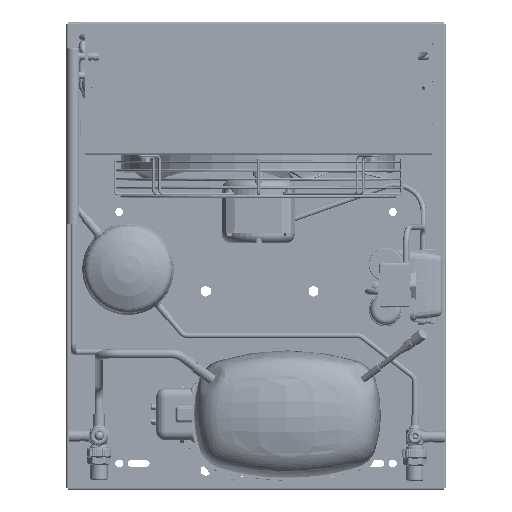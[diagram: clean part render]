
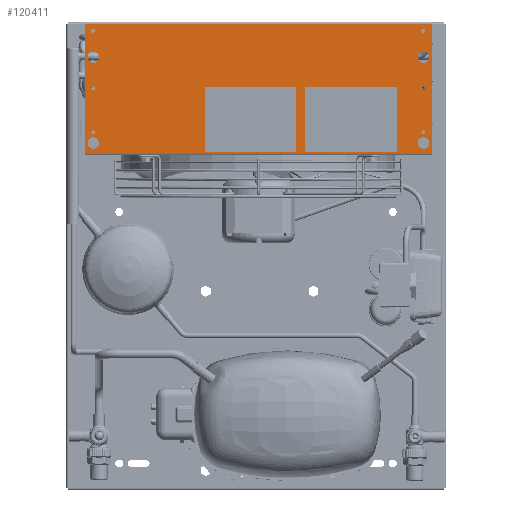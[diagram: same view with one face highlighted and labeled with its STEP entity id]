
A CAD part, top view. The second image highlights one B-rep face of the part: STEP entity #120411.
In plain terms, the highlighted planar face has unit normal (0, 0, 1).
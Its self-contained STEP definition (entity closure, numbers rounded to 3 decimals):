
#10846=LINE('',#201801,#18457);
#10895=LINE('',#201977,#18506);
#10898=LINE('',#201985,#18509);
#10899=LINE('',#202007,#18510);
#18457=VECTOR('',#173426,1000.);
#18506=VECTOR('',#173571,1000.);
#18509=VECTOR('',#173580,1000.);
#18510=VECTOR('',#173603,1000.);
#28733=ORIENTED_EDGE('',*,*,#62055,.F.);
#28734=ORIENTED_EDGE('',*,*,#62056,.F.);
#28735=ORIENTED_EDGE('',*,*,#62057,.F.);
#28736=ORIENTED_EDGE('',*,*,#62058,.F.);
#28737=ORIENTED_EDGE('',*,*,#62059,.F.);
#28738=ORIENTED_EDGE('',*,*,#62060,.F.);
#28739=ORIENTED_EDGE('',*,*,#62061,.F.);
#28740=ORIENTED_EDGE('',*,*,#62062,.F.);
#28741=ORIENTED_EDGE('',*,*,#62063,.F.);
#28742=ORIENTED_EDGE('',*,*,#62064,.F.);
#28743=ORIENTED_EDGE('',*,*,#62050,.T.);
#28744=ORIENTED_EDGE('',*,*,#62065,.F.);
#28745=ORIENTED_EDGE('',*,*,#61961,.F.);
#28746=ORIENTED_EDGE('',*,*,#62054,.T.);
#61961=EDGE_CURVE('',#79153,#79154,#10846,.T.);
#62050=EDGE_CURVE('',#79233,#79232,#10895,.T.);
#62054=EDGE_CURVE('',#79153,#79233,#10898,.T.);
#62055=EDGE_CURVE('',#79235,#79235,#90978,.T.);
#62056=EDGE_CURVE('',#79236,#79236,#90979,.T.);
#62057=EDGE_CURVE('',#79237,#79237,#90980,.T.);
#62058=EDGE_CURVE('',#79238,#79238,#90981,.T.);
#62059=EDGE_CURVE('',#79239,#79239,#90982,.T.);
#62060=EDGE_CURVE('',#79240,#79240,#90983,.T.);
#62061=EDGE_CURVE('',#79241,#79241,#90984,.T.);
#62062=EDGE_CURVE('',#79242,#79242,#90985,.T.);
#62063=EDGE_CURVE('',#79243,#79243,#90986,.T.);
#62064=EDGE_CURVE('',#79244,#79244,#90987,.T.);
#62065=EDGE_CURVE('',#79154,#79232,#10899,.T.);
#79153=VERTEX_POINT('',#201800);
#79154=VERTEX_POINT('',#201802);
#79232=VERTEX_POINT('',#201976);
#79233=VERTEX_POINT('',#201978);
#79235=VERTEX_POINT('',#201988);
#79236=VERTEX_POINT('',#201990);
#79237=VERTEX_POINT('',#201992);
#79238=VERTEX_POINT('',#201994);
#79239=VERTEX_POINT('',#201996);
#79240=VERTEX_POINT('',#201998);
#79241=VERTEX_POINT('',#202000);
#79242=VERTEX_POINT('',#202002);
#79243=VERTEX_POINT('',#202004);
#79244=VERTEX_POINT('',#202006);
#90978=CIRCLE('',#160336,6.5);
#90979=CIRCLE('',#160337,6.5);
#90980=CIRCLE('',#160338,6.5);
#90981=CIRCLE('',#160339,6.5);
#90982=CIRCLE('',#160340,2.25);
#90983=CIRCLE('',#160341,2.25);
#90984=CIRCLE('',#160342,2.25);
#90985=CIRCLE('',#160343,2.25);
#90986=CIRCLE('',#160344,2.25);
#90987=CIRCLE('',#160345,2.25);
#95454=EDGE_LOOP('',(#28733));
#95455=EDGE_LOOP('',(#28734));
#95456=EDGE_LOOP('',(#28735));
#95457=EDGE_LOOP('',(#28736));
#95458=EDGE_LOOP('',(#28737));
#95459=EDGE_LOOP('',(#28738));
#95460=EDGE_LOOP('',(#28739));
#95461=EDGE_LOOP('',(#28740));
#95462=EDGE_LOOP('',(#28741));
#95463=EDGE_LOOP('',(#28742));
#95464=EDGE_LOOP('',(#28743,#28744,#28745,#28746));
#106130=FACE_BOUND('',#95454,.T.);
#106131=FACE_BOUND('',#95455,.T.);
#106132=FACE_BOUND('',#95456,.T.);
#106133=FACE_BOUND('',#95457,.T.);
#106134=FACE_BOUND('',#95458,.T.);
#106135=FACE_BOUND('',#95459,.T.);
#106136=FACE_BOUND('',#95460,.T.);
#106137=FACE_BOUND('',#95461,.T.);
#106138=FACE_BOUND('',#95462,.T.);
#106139=FACE_BOUND('',#95463,.T.);
#106140=FACE_BOUND('',#95464,.T.);
#115120=PLANE('',#160335);
#120411=ADVANCED_FACE('',(#106130,#106131,#106132,#106133,#106134,#106135,
#106136,#106137,#106138,#106139,#106140),#115120,.F.);
#160335=AXIS2_PLACEMENT_3D('',#201986,#173581,#173582);
#160336=AXIS2_PLACEMENT_3D('',#201987,#173583,#173584);
#160337=AXIS2_PLACEMENT_3D('',#201989,#173585,#173586);
#160338=AXIS2_PLACEMENT_3D('',#201991,#173587,#173588);
#160339=AXIS2_PLACEMENT_3D('',#201993,#173589,#173590);
#160340=AXIS2_PLACEMENT_3D('',#201995,#173591,#173592);
#160341=AXIS2_PLACEMENT_3D('',#201997,#173593,#173594);
#160342=AXIS2_PLACEMENT_3D('',#201999,#173595,#173596);
#160343=AXIS2_PLACEMENT_3D('',#202001,#173597,#173598);
#160344=AXIS2_PLACEMENT_3D('',#202003,#173599,#173600);
#160345=AXIS2_PLACEMENT_3D('',#202005,#173601,#173602);
#173426=DIRECTION('',(0.,1.,0.));
#173571=DIRECTION('',(0.,1.,0.));
#173580=DIRECTION('',(1.,0.,0.));
#173581=DIRECTION('',(0.,0.,-1.));
#173582=DIRECTION('',(-1.,0.,0.));
#173583=DIRECTION('',(0.,0.,1.));
#173584=DIRECTION('',(-1.,0.,0.));
#173585=DIRECTION('',(0.,0.,1.));
#173586=DIRECTION('',(-1.,0.,0.));
#173587=DIRECTION('',(0.,0.,1.));
#173588=DIRECTION('',(-1.,0.,0.));
#173589=DIRECTION('',(0.,0.,1.));
#173590=DIRECTION('',(-1.,0.,0.));
#173591=DIRECTION('',(0.,0.,1.));
#173592=DIRECTION('',(-1.,0.,0.));
#173593=DIRECTION('',(0.,0.,1.));
#173594=DIRECTION('',(-1.,0.,0.));
#173595=DIRECTION('',(0.,0.,1.));
#173596=DIRECTION('',(-1.,0.,0.));
#173597=DIRECTION('',(0.,0.,1.));
#173598=DIRECTION('',(-1.,0.,0.));
#173599=DIRECTION('',(0.,0.,1.));
#173600=DIRECTION('',(-1.,0.,0.));
#173601=DIRECTION('',(0.,0.,1.));
#173602=DIRECTION('',(-1.,0.,0.));
#173603=DIRECTION('',(1.,0.,0.));
#201800=CARTESIAN_POINT('',(-197.,-73.1,0.));
#201801=CARTESIAN_POINT('',(-197.,-75.1,0.));
#201802=CARTESIAN_POINT('',(-197.,73.1,0.));
#201976=CARTESIAN_POINT('',(197.,73.1,0.));
#201977=CARTESIAN_POINT('',(197.,-75.1,0.));
#201978=CARTESIAN_POINT('',(197.,-73.1,0.));
#201985=CARTESIAN_POINT('',(-197.,-73.1,0.));
#201986=CARTESIAN_POINT('',(-197.,-75.1,0.));
#201987=CARTESIAN_POINT('',(-187.,-35.1,0.));
#201988=CARTESIAN_POINT('',(-193.5,-35.1,0.));
#201989=CARTESIAN_POINT('',(187.,-35.1,0.));
#201990=CARTESIAN_POINT('',(180.5,-35.1,0.));
#201991=CARTESIAN_POINT('',(187.,62.1,0.));
#201992=CARTESIAN_POINT('',(180.5,62.1,0.));
#201993=CARTESIAN_POINT('',(-187.,62.1,0.));
#201994=CARTESIAN_POINT('',(-193.5,62.1,0.));
#201995=CARTESIAN_POINT('',(-187.,-65.1,0.));
#201996=CARTESIAN_POINT('',(-189.25,-65.1,0.));
#201997=CARTESIAN_POINT('',(187.,-65.1,0.));
#201998=CARTESIAN_POINT('',(184.75,-65.1,0.));
#201999=CARTESIAN_POINT('',(187.,-0.1,0.));
#202000=CARTESIAN_POINT('',(184.75,-0.1,0.));
#202001=CARTESIAN_POINT('',(-187.,-0.1,0.));
#202002=CARTESIAN_POINT('',(-189.25,-0.1,0.));
#202003=CARTESIAN_POINT('',(-187.,49.9,0.));
#202004=CARTESIAN_POINT('',(-189.25,49.9,0.));
#202005=CARTESIAN_POINT('',(187.,49.9,0.));
#202006=CARTESIAN_POINT('',(184.75,49.9,0.));
#202007=CARTESIAN_POINT('',(-197.,73.1,0.));
